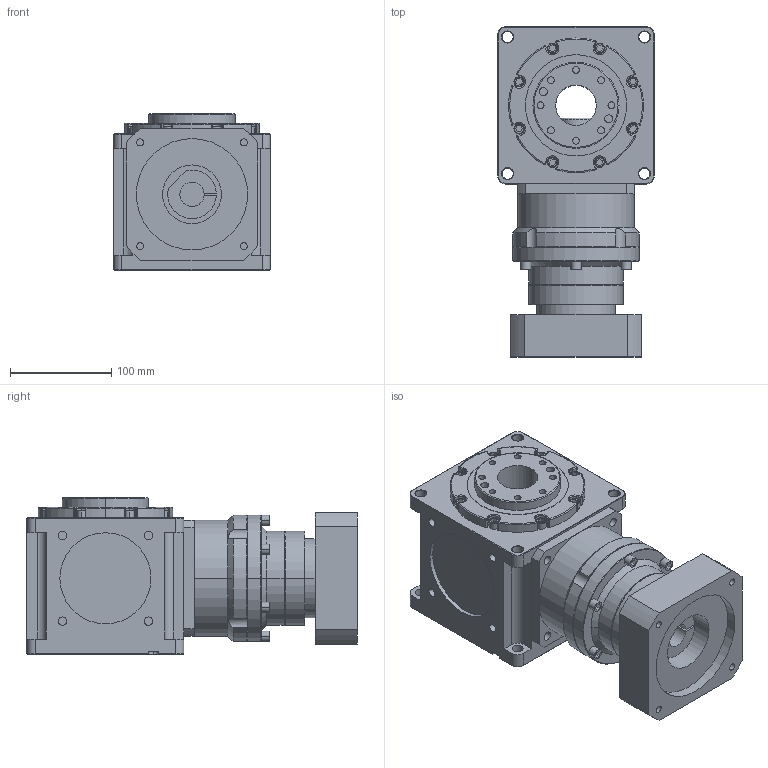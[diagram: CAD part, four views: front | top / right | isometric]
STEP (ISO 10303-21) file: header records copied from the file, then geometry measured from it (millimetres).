
FILE_DESCRIPTION (( 'STEP AP214' ), '1' );
FILE_NAME ('CCW155A-L2(24-200)-RF 24-110-145-M8.STEP', '2025-05-24T07:35:33', ( '微软用户' ), ( '微软中国' ), 'SwSTEP 2.0', 'SolidWorks 2024', '' );
FILE_SCHEMA (( 'AUTOMOTIVE_DESIGN' ));
Length unit declared in the file: millimetre
Products named in the file (3): VRB-115-L2-S2-P1 24-110-145-M8; CCW155A-002-FR箱体; CCW155A-L2(24-200)-RF 24-110-145-M8
Assembly tree (2 placements, depth 2):
  CCW155A-L2(24-200)-RF 24-110-145-M8
    CCW155A-002-FR箱体
    VRB-115-L2-S2-P1 24-110-145-M8
Bounding box: 155 x 326 x 154.5 mm (x, y, z)
Volume: 4788813.2 mm3; surface area: 326852.7 mm2
Topology: 2 solids, 2 shells, 611 faces, 1446 edges, 894 vertices
Faces by surface type: cylinder 249, plane 248, torus 49, cone 49, sphere 16
Entity records: 17844 total; most frequent: DIRECTION 3314, CARTESIAN_POINT 3175, ORIENTED_EDGE 2856, EDGE_CURVE 1428, AXIS2_PLACEMENT_3D 1287, VERTEX_POINT 894, LINE 740, VECTOR 740
